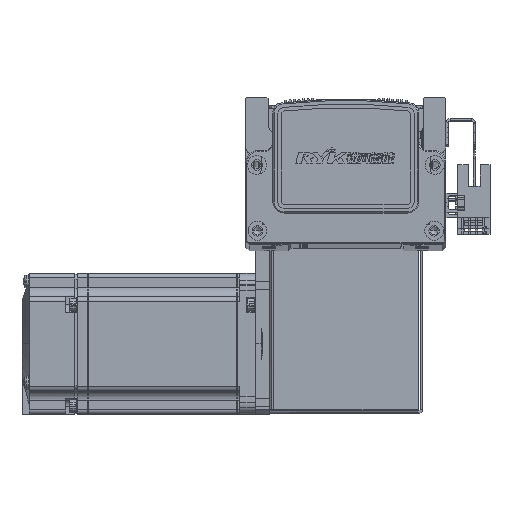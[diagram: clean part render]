
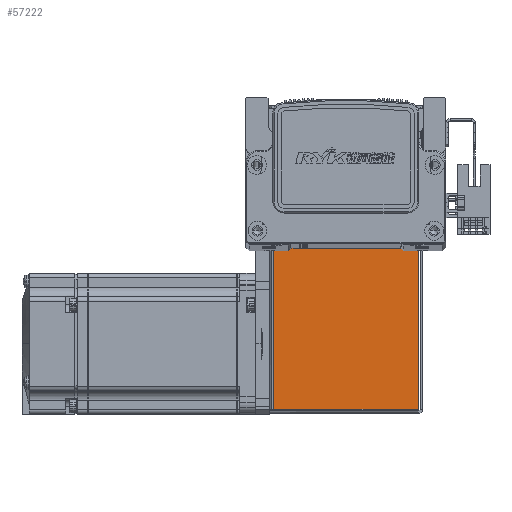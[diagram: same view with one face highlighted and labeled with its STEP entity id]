
A CAD part, top view. The second image highlights one B-rep face of the part: STEP entity #57222.
In plain terms, the highlighted planar face has unit normal (0, 0, 1) as drawn and (0, 0, -1) by its records, which use the part's own axes.
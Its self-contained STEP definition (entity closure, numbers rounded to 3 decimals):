
#7572 = CARTESIAN_POINT ( 'NONE',  ( 32.5, 0.737, -35. ) ) ;
#7574 = CARTESIAN_POINT ( 'NONE',  ( 30.763, 72.5, -35. ) ) ;
#7597 = DIRECTION ( 'NONE',  ( 1., 0., 0. ) ) ;
#7641 = DIRECTION ( 'NONE',  ( 0., -1., 0. ) ) ;
#13275 = ORIENTED_EDGE ( 'NONE', *, *, #68670, .T. ) ;
#13296 = ORIENTED_EDGE ( 'NONE', *, *, #68305, .T. ) ;
#13300 = ORIENTED_EDGE ( 'NONE', *, *, #68307, .F. ) ;
#13306 = ORIENTED_EDGE ( 'NONE', *, *, #68580, .T. ) ;
#17783 = FACE_OUTER_BOUND ( 'NONE', #35727, .T. ) ;
#18747 = CARTESIAN_POINT ( 'NONE',  ( -30.793, 72.5, -35. ) ) ;
#18756 = CARTESIAN_POINT ( 'NONE',  ( 30.763, 72.5, -35. ) ) ;
#18780 = CARTESIAN_POINT ( 'NONE',  ( 30.763, 0.737, -35. ) ) ;
#18782 = CARTESIAN_POINT ( 'NONE',  ( -30.793, 0.737, -35. ) ) ;
#31735 = VERTEX_POINT ( 'NONE', #18782 ) ;
#31738 = VERTEX_POINT ( 'NONE', #18756 ) ;
#31757 = VERTEX_POINT ( 'NONE', #18747 ) ;
#31815 = VERTEX_POINT ( 'NONE', #18780 ) ;
#35727 = EDGE_LOOP ( 'NONE', ( #13296, #13300, #13275, #13306 ) ) ;
#42038 = LINE ( 'NONE', #60104, #42051 ) ;
#42051 = VECTOR ( 'NONE', #60159, 1000. ) ;
#42081 = LINE ( 'NONE', #60308, #42185 ) ;
#42185 = VECTOR ( 'NONE', #60310, 1000. ) ;
#57222 = ADVANCED_FACE ( 'NONE', ( #17783 ), #66201, .F. ) ;
#60104 = CARTESIAN_POINT ( 'NONE',  ( 0., 72.5, -35. ) ) ;
#60159 = DIRECTION ( 'NONE',  ( 1., 0., 0. ) ) ;
#60308 = CARTESIAN_POINT ( 'NONE',  ( -30.793, 0., -35. ) ) ;
#60310 = DIRECTION ( 'NONE',  ( 0., 1., 0. ) ) ;
#66171 = DIRECTION ( 'NONE',  ( 0., 0., 1. ) ) ;
#66172 = DIRECTION ( 'NONE',  ( 0., -1., 0. ) ) ;
#66190 = CARTESIAN_POINT ( 'NONE',  ( 0., 0., -35. ) ) ;
#66201 = PLANE ( 'NONE',  #74751 ) ;
#68305 = EDGE_CURVE ( 'NONE', #31738, #31815, #73687, .T. ) ;
#68307 = EDGE_CURVE ( 'NONE', #31735, #31815, #73684, .T. ) ;
#68580 = EDGE_CURVE ( 'NONE', #31757, #31738, #42038, .T. ) ;
#68670 = EDGE_CURVE ( 'NONE', #31735, #31757, #42081, .T. ) ;
#73683 = VECTOR ( 'NONE', #7641, 1000. ) ;
#73684 = LINE ( 'NONE', #7572, #73690 ) ;
#73687 = LINE ( 'NONE', #7574, #73683 ) ;
#73690 = VECTOR ( 'NONE', #7597, 1000. ) ;
#74751 = AXIS2_PLACEMENT_3D ( 'NONE', #66190, #66171, #66172 ) ;
